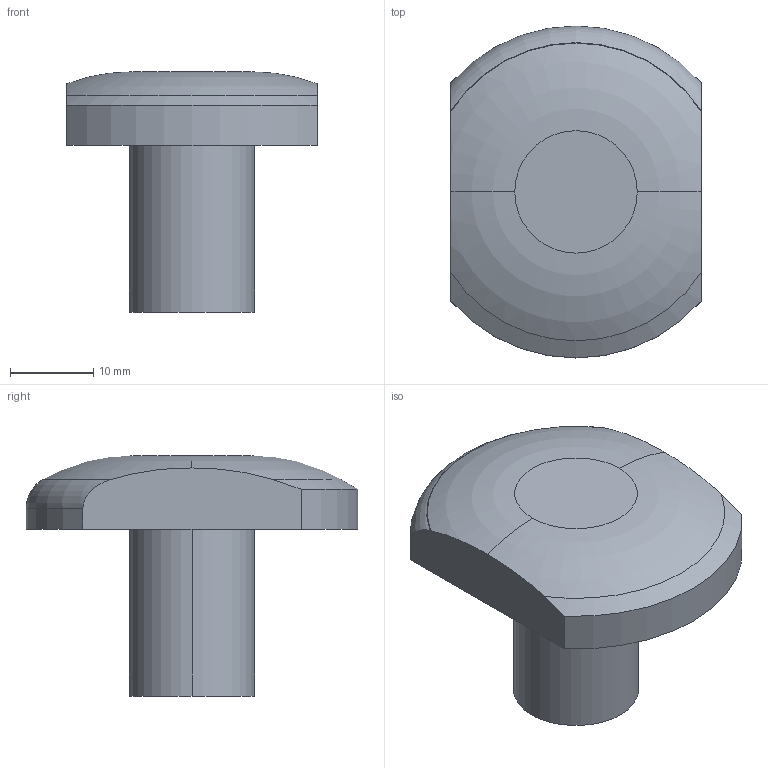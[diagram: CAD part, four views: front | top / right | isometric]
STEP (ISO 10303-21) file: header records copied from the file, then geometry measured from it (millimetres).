
FILE_DESCRIPTION (( 'STEP AP214' ), '1' );
FILE_NAME ('Äåòàëü Êðåïññ ì8 ãëóõàÿ.STEP', '2026-08-28T08:30:52', ( '' ), ( '' ), 'SwSTEP 2.0', 'SolidWorks 2024', '' );
FILE_SCHEMA (( 'AUTOMOTIVE_DESIGN' ));
Length unit declared in the file: millimetre
Products named in the file (1): Деталь Крепсс м8 глухая
Bounding box: 30 x 39.8 x 28.8 mm (x, y, z)
Volume: 10067.2 mm3; surface area: 4683.4 mm2
Topology: 1 solids, 1 shells, 44 faces, 116 edges, 77 vertices
Faces by surface type: cylinder 24, cone 7, plane 7, torus 3, bspline 3
Entity records: 4745 total; most frequent: CARTESIAN_POINT 3750, ORIENTED_EDGE 232, DIRECTION 168, EDGE_CURVE 116, VERTEX_POINT 77, AXIS2_PLACEMENT_3D 68, EDGE_LOOP 47, FACE_OUTER_BOUND 44
